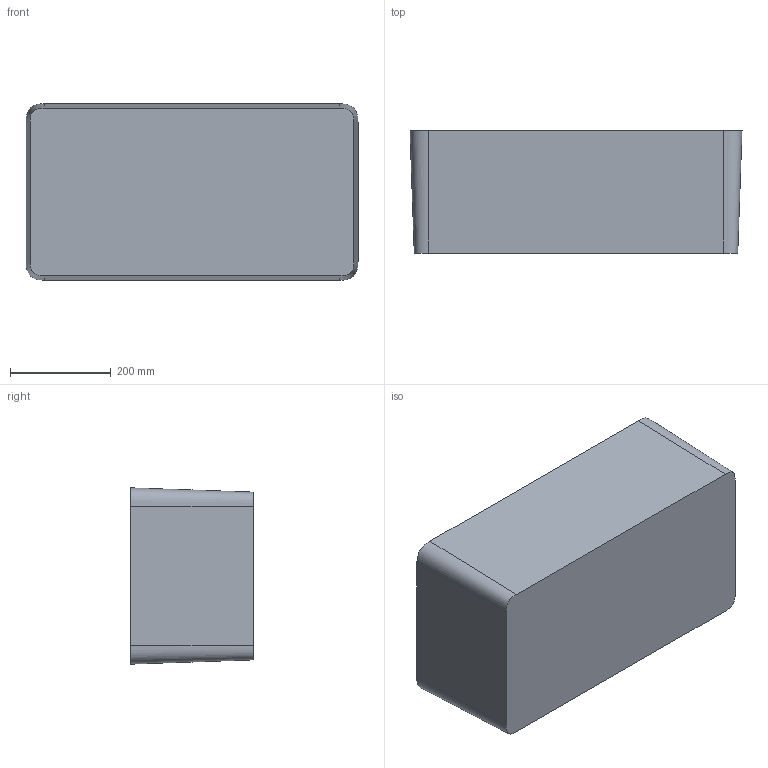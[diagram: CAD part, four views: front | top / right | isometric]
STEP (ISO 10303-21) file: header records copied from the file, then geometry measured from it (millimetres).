
FILE_DESCRIPTION (( 'STEP AP214' ), '1' );
FILE_NAME ('1606 Bottom Tub.STEP', '2020-06-28T22:50:01', ( '' ), ( '' ), 'SwSTEP 2.0', 'SolidWorks 2016', '' );
FILE_SCHEMA (( 'AUTOMOTIVE_DESIGN' ));
Length unit declared in the file: inch
Products named in the file (1): 1606 Bottom Tub
Bounding box: 659.55 x 243.08 x 350.24 mm (x, y, z)
Volume: 10823503.3 mm3; surface area: 1336360.6 mm2
Topology: 1 solids, 1 shells, 529 faces, 1336 edges, 807 vertices
Faces by surface type: bspline 286, cylinder 171, plane 72
Entity records: 39315 total; most frequent: CARTESIAN_POINT 28925, ORIENTED_EDGE 2652, DIRECTION 1482, EDGE_CURVE 1326, VERTEX_POINT 807, B_SPLINE_CURVE_WITH_KNOTS 549, EDGE_LOOP 537, AXIS2_PLACEMENT_3D 534
